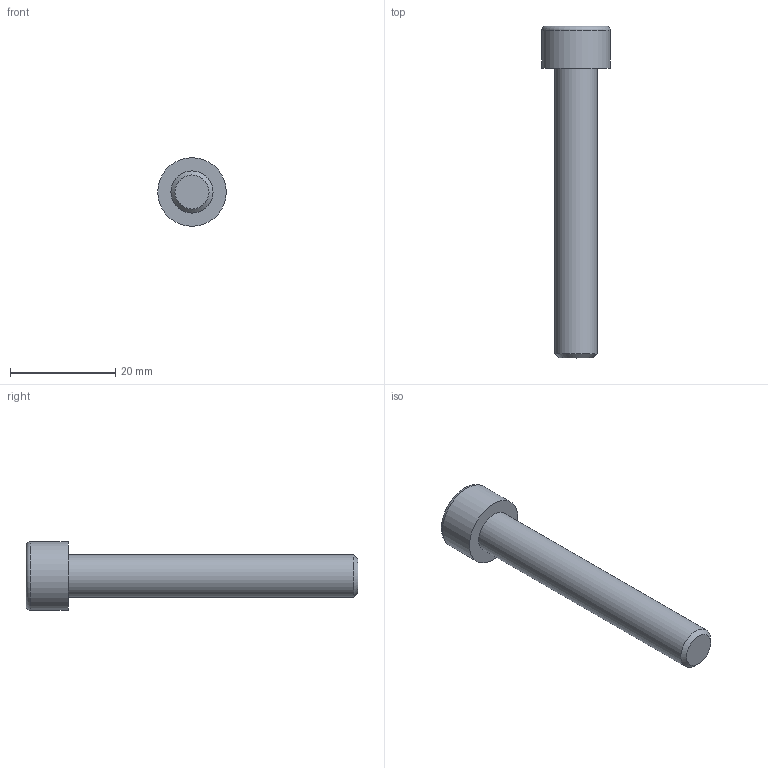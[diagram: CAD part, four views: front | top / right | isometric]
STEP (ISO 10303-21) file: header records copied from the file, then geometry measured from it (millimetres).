
FILE_DESCRIPTION(/* description */ (''),/* implementation_level */ '2;1');
FILE_NAME(/* name */ 'C:\Users\D\Documents\Inventor\各種小物\JIS\JIS B 1176 六角穴付きボルト\M8x55.stp',/* time_stamp */ '2022-05-09T18:52:26+09:00',/* author */ ('D'),/* organization */ (''),/* preprocessor_version */ 'ST-DEVELOPER v18',/* originating_system */ 'Autodesk Inventor 2020',/* authorisation */ '');
FILE_SCHEMA (('AUTOMOTIVE_DESIGN { 1 0 10303 214 3 1 1 }'));
Length unit declared in the file: millimetre
Products named in the file (1): M1.6x2.5
Bounding box: 13 x 63 x 13 mm (x, y, z)
Volume: 3664.9 mm3; surface area: 2039.7 mm2
Topology: 1 solids, 1 shells, 14 faces, 33 edges, 22 vertices
Faces by surface type: plane 9, cone 2, cylinder 2, torus 1
Full cylindrical faces by diameter (mm): 8 x1, 13 x1
Entity records: 435 total; most frequent: CARTESIAN_POINT 83, ORIENTED_EDGE 64, DIRECTION 64, EDGE_CURVE 32, AXIS2_PLACEMENT_3D 24, VERTEX_POINT 22, EDGE_LOOP 16, LINE 16
